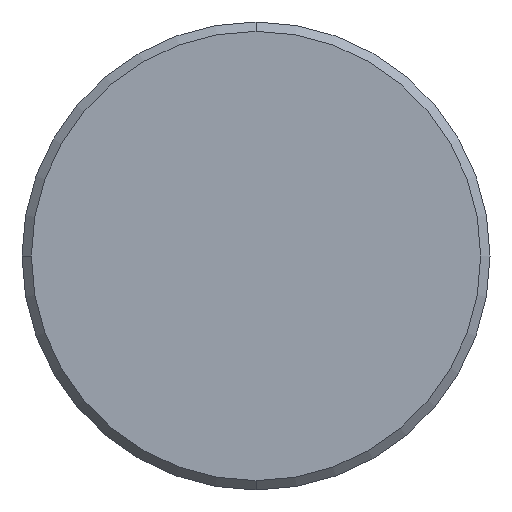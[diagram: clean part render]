
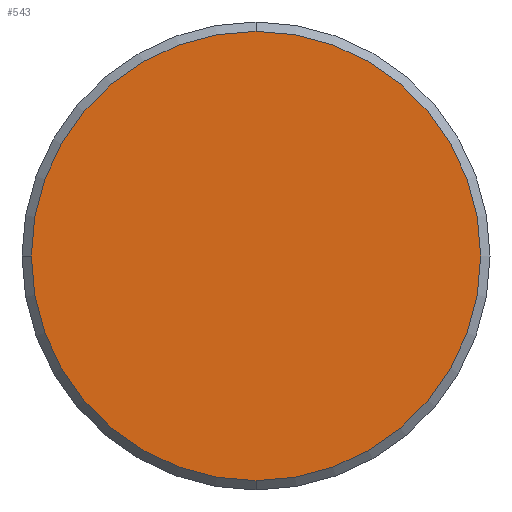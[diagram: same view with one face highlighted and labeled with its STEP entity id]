
A CAD part, left-side view. The second image highlights one B-rep face of the part: STEP entity #543.
In plain terms, the highlighted planar face has unit normal (-1, 0, 0).
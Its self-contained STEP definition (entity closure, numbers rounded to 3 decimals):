
#101 = EDGE_CURVE ( 'NONE', #1222, #1173, #162, .T. ) ;
#162 = CIRCLE ( 'NONE', #175, 12. ) ;
#163 = EDGE_CURVE ( 'NONE', #1234, #1222, #410, .T. ) ;
#175 = AXIS2_PLACEMENT_3D ( 'NONE', #755, #761, #765 ) ;
#201 = EDGE_CURVE ( 'NONE', #1173, #1234, #501, .T. ) ;
#281 = CARTESIAN_POINT ( 'NONE',  ( 0., 0., 0. ) ) ;
#282 = DIRECTION ( 'NONE',  ( 1., 0., 0. ) ) ;
#283 = DIRECTION ( 'NONE',  ( 0., 1., 0. ) ) ;
#352 = ORIENTED_EDGE ( 'NONE', *, *, #101, .F. ) ;
#372 = ORIENTED_EDGE ( 'NONE', *, *, #201, .F. ) ;
#408 = AXIS2_PLACEMENT_3D ( 'NONE', #878, #879, #880 ) ;
#410 = CIRCLE ( 'NONE', #419, 12. ) ;
#419 = AXIS2_PLACEMENT_3D ( 'NONE', #835, #836, #837 ) ;
#484 = AXIS2_PLACEMENT_3D ( 'NONE', #281, #282, #283 ) ;
#501 = CIRCLE ( 'NONE', #484, 12. ) ;
#543 = ADVANCED_FACE ( 'NONE', ( #876 ), #877, .F. ) ;
#755 = CARTESIAN_POINT ( 'NONE',  ( 0., 0., 0. ) ) ;
#761 = DIRECTION ( 'NONE',  ( 1., 0., 0. ) ) ;
#765 = DIRECTION ( 'NONE',  ( 0., 0., -1. ) ) ;
#835 = CARTESIAN_POINT ( 'NONE',  ( 0., 0., 0. ) ) ;
#836 = DIRECTION ( 'NONE',  ( 1., 0., 0. ) ) ;
#837 = DIRECTION ( 'NONE',  ( 0., 1., 0. ) ) ;
#876 = FACE_OUTER_BOUND ( 'NONE', #1241, .T. ) ;
#877 = PLANE ( 'NONE',  #408 ) ;
#878 = CARTESIAN_POINT ( 'NONE',  ( 0., -12.65, 12.65 ) ) ;
#879 = DIRECTION ( 'NONE',  ( 1., 0., 0. ) ) ;
#880 = DIRECTION ( 'NONE',  ( 0., 0., -1. ) ) ;
#984 = CARTESIAN_POINT ( 'NONE',  ( 0., 0., -12. ) ) ;
#1019 = CARTESIAN_POINT ( 'NONE',  ( 0., 0., 12. ) ) ;
#1031 = CARTESIAN_POINT ( 'NONE',  ( 0., 12., 0. ) ) ;
#1173 = VERTEX_POINT ( 'NONE', #984 ) ;
#1181 = ORIENTED_EDGE ( 'NONE', *, *, #163, .F. ) ;
#1222 = VERTEX_POINT ( 'NONE', #1019 ) ;
#1234 = VERTEX_POINT ( 'NONE', #1031 ) ;
#1241 = EDGE_LOOP ( 'NONE', ( #352, #1181, #372 ) ) ;
